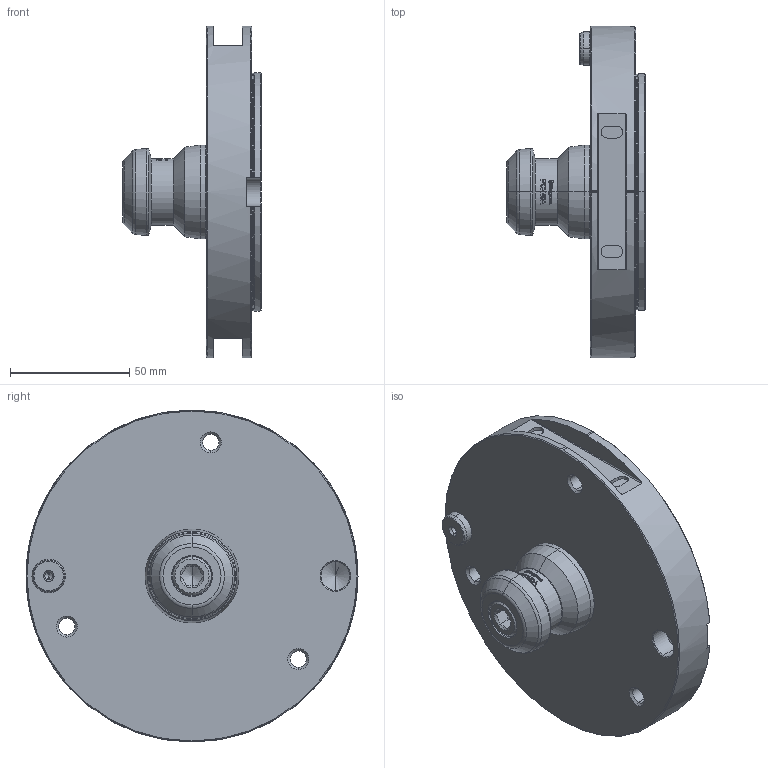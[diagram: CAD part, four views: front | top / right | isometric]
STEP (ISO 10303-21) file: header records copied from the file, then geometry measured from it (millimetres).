
FILE_DESCRIPTION (( 'STEP AP203' ), '1' );
FILE_NAME ('61P296270.STEP', '2024-04-26T06:54:48', ( '' ), ( '' ), 'SwSTEP 2.0', 'SolidWorks 2022', '' );
FILE_SCHEMA (( 'CONFIG_CONTROL_DESIGN' ));
Length unit declared in the file: millimetre
Products named in the file (5): 61P493325; 61P864234; 0030110045; 61P293306; 61P296270
Assembly tree (4 placements, depth 2):
  61P296270
    61P864234
    61P293306
    61P493325
    0030110045
Bounding box: 58 x 139 x 139 mm (x, y, z)
Volume: 331489.9 mm3; surface area: 55589.4 mm2
Topology: 4 solids, 4 shells, 450 faces, 1818 edges, 1414 vertices
Faces by surface type: plane 149, bspline 104, cylinder 89, cone 89, torus 19
Entity records: 24018 total; most frequent: CARTESIAN_POINT 10366, ORIENTED_EDGE 3620, DIRECTION 1906, EDGE_CURVE 1810, VERTEX_POINT 1414, AXIS2_PLACEMENT_3D 674, LINE 558, VECTOR 558
